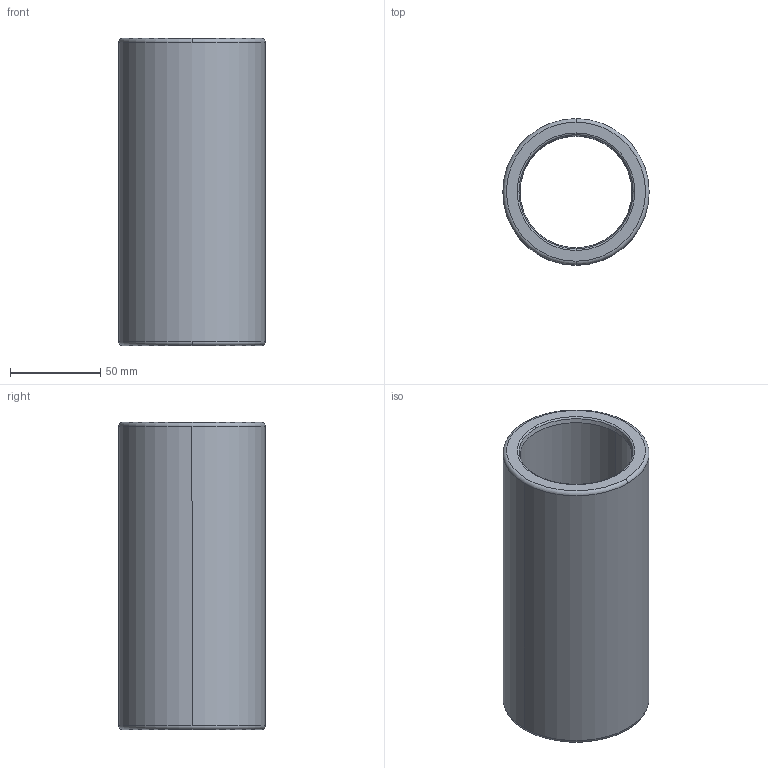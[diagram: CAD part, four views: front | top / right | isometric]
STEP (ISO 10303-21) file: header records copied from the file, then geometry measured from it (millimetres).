
FILE_DESCRIPTION((''),'2;1');
FILE_NAME('B30_050_170.stp','2009-01-12T10:57:55',(''),(''),'Mechanical Desktop 2009','Mechanical Desktop 2009',', , ');
FILE_SCHEMA(('CONFIG_CONTROL_DESIGN'));
Length unit declared in the file: millimetre
Products named in the file (2): Product; blmdl1
Assembly tree (1 placements, depth 2):
  Product
    blmdl1
Bounding box: 80.98 x 80.98 x 170 mm (x, y, z)
Volume: 362099.1 mm3; surface area: 79823.1 mm2
Topology: 1 solids, 1 shells, 18 faces, 48 edges, 32 vertices
Faces by surface type: torus 8, cylinder 4, cone 4, plane 2
Entity records: 705 total; most frequent: DIRECTION 128, CARTESIAN_POINT 100, ORIENTED_EDGE 96, AXIS2_PLACEMENT_3D 60, EDGE_CURVE 48, CIRCLE 40, VERTEX_POINT 32, EDGE_LOOP 20
